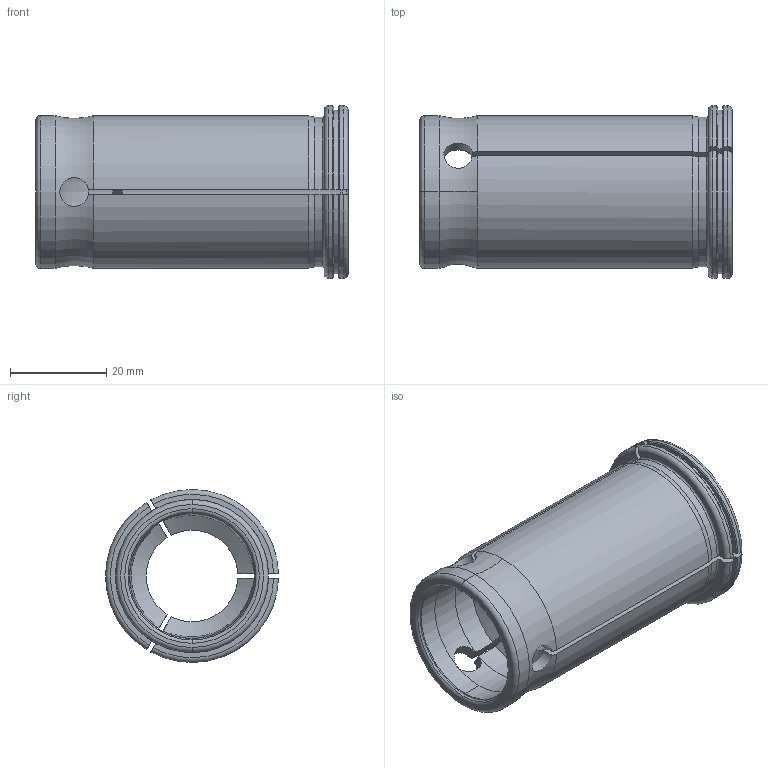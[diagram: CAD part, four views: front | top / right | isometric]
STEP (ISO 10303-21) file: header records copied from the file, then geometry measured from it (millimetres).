
FILE_DESCRIPTION((''),'2;1');
FILE_NAME('K31_75-19_05','2020-09-02T08:23:01',('ssktool'),(''),'CREO PARAMETRIC BY PTC INC, 2018100','CREO PARAMETRIC BY PTC INC, 2018100','');
FILE_SCHEMA(('CONFIG_CONTROL_DESIGN'));
Length unit declared in the file: millimetre
Products named in the file (1): K31_75-19_05
Bounding box: 65 x 35.99 x 36 mm (x, y, z)
Volume: 28194.2 mm3; surface area: 13737.2 mm2
Topology: 1 solids, 1 shells, 90 faces, 254 edges, 165 vertices
Faces by surface type: cylinder 28, torus 26, plane 19, cone 17
Entity records: 3329 total; most frequent: CARTESIAN_POINT 1029, ORIENTED_EDGE 508, DIRECTION 448, EDGE_CURVE 254, AXIS2_PLACEMENT_3D 185, VERTEX_POINT 165, CIRCLE 95, EDGE_LOOP 91
